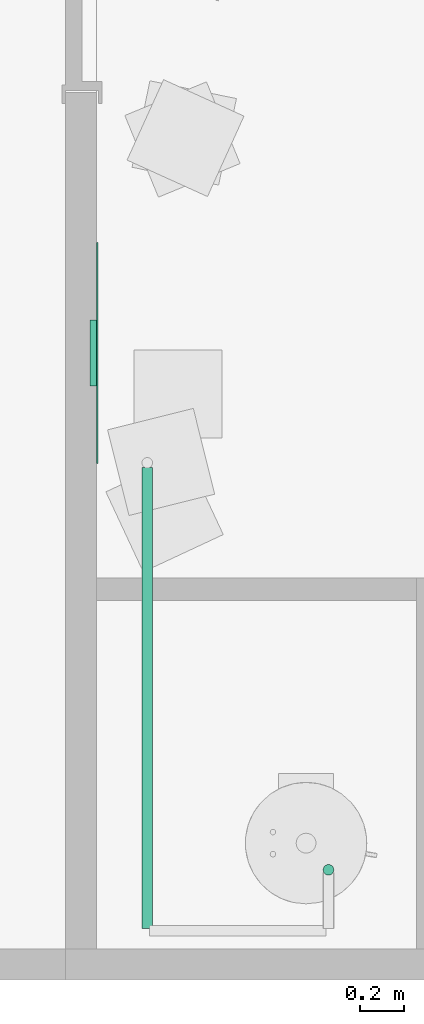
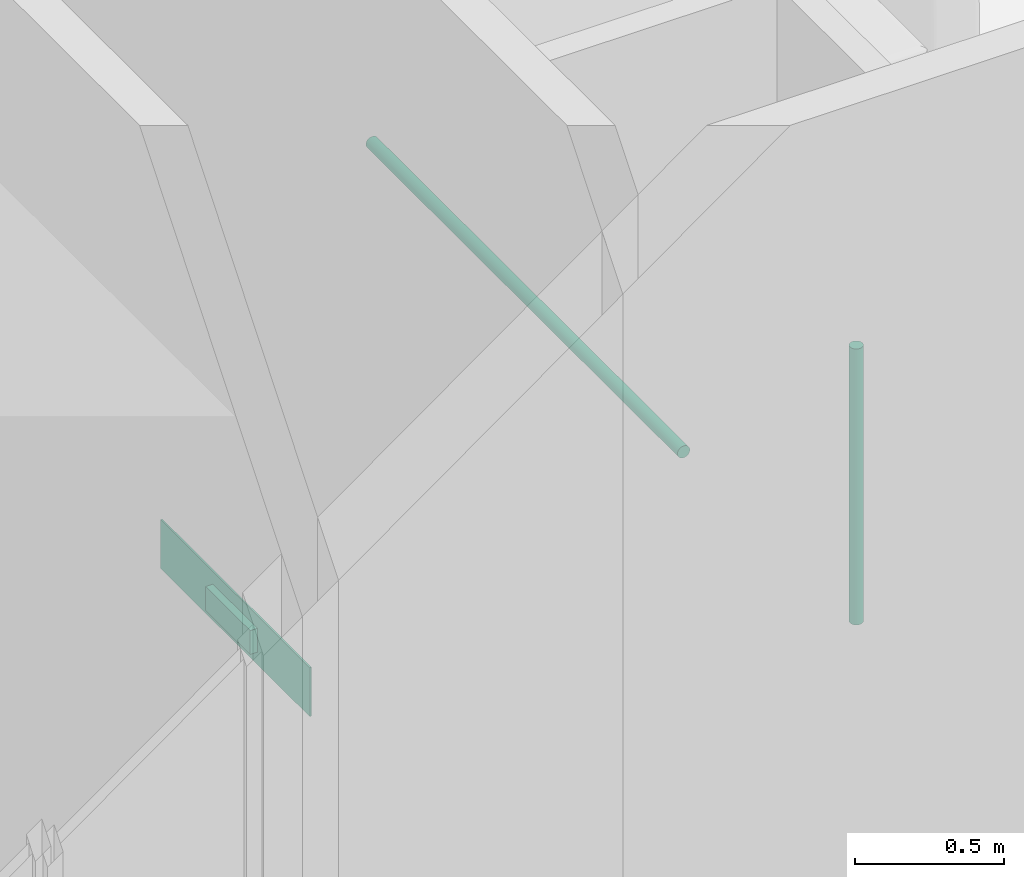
# One storey, part 32 of 69: 2 pipe segments, 1 air terminal.
"""IFC4 building model written with IfcOpenShell, lengths in centimetres."""

from ifc_helpers import new_model, entity, si_unit, converted_unit, derived_unit, direction, frame, origin, place, context, subcontext, project, spatial, arc, indexed_curve, outline, extrude, source, transform, mapped, material, constituent, constituent_set, type_object, type_shapes, element, save


model = new_model("IFC4")

# Units and contexts
model_context = context("Model", 3, precision=0.001, world=origin(), true_north=direction((6.123233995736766e-17, 1.0)))
body_context = subcontext(model_context, "Body", "Model", "MODEL_VIEW")
ifc_project = project(units=[si_unit("LENGTHUNIT", "METRE", prefix="CENTI"), si_unit("AREAUNIT", "SQUARE_METRE"), si_unit("VOLUMEUNIT", "CUBIC_METRE"), derived_unit("THERMALTRANSMITTANCEUNIT", [(si_unit("MASSUNIT", "GRAM", prefix="KILO"), 1), (si_unit("THERMODYNAMICTEMPERATUREUNIT", "KELVIN"), -1), (si_unit("TIMEUNIT", "SECOND"), -3)]), converted_unit("PLANEANGLEUNIT", "DEGREE", entity("IfcPlaneAngleMeasure", 0.017453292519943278), si_unit("PLANEANGLEUNIT", "RADIAN"), dimensions=[0, 0, 0, 0, 0, 0, 0]), derived_unit("MASSDENSITYUNIT", [(si_unit("MASSUNIT", "GRAM", prefix="KILO"), 1), (si_unit("LENGTHUNIT", "METRE"), -3)]), derived_unit("VAPORPERMEABILITYUNIT", [(si_unit("LENGTHUNIT", "METRE"), -1), (si_unit("TIMEUNIT", "SECOND"), 1)]), derived_unit("USERDEFINED", [(si_unit("MASSUNIT", "GRAM", prefix="KILO"), 1), (si_unit("TIMEUNIT", "SECOND"), -3), (si_unit("LENGTHUNIT", "METRE"), 3), (si_unit("ELECTRICCURRENTUNIT", "AMPERE"), -2)]), derived_unit("SPECIFICHEATCAPACITYUNIT", [(si_unit("THERMODYNAMICTEMPERATUREUNIT", "KELVIN"), -1), (si_unit("LENGTHUNIT", "METRE"), 2), (si_unit("TIMEUNIT", "SECOND"), -2)]), derived_unit("THERMALCONDUCTANCEUNIT", [(si_unit("MASSUNIT", "GRAM", prefix="KILO"), 1), (si_unit("THERMODYNAMICTEMPERATUREUNIT", "KELVIN"), -1), (si_unit("TIMEUNIT", "SECOND"), -3), (si_unit("LENGTHUNIT", "METRE"), 1)]), si_unit("PRESSUREUNIT", "PASCAL"), derived_unit("MODULUSOFELASTICITYUNIT", [(si_unit("MASSUNIT", "GRAM", prefix="KILO"), 1), (si_unit("LENGTHUNIT", "METRE"), -1), (si_unit("TIMEUNIT", "SECOND"), -2)]), derived_unit("THERMALEXPANSIONCOEFFICIENTUNIT", [(si_unit("THERMODYNAMICTEMPERATUREUNIT", "KELVIN"), -1)])], contexts=[model_context])

# Site, building, storey, space
site_placement = place(None, origin())
site = spatial("IfcSite", under=ifc_project, at=site_placement, Name="Default", CompositionType="ELEMENT")
building_placement = place(site_placement, origin())
building = spatial("IfcBuilding", under=site, at=building_placement, Name="IDS Escape Game Building", CompositionType="ELEMENT")
storey_placement = place(building_placement, origin())
storey = spatial("IfcBuildingStorey", under=building, at=storey_placement, Name="00_Ground Floor", CompositionType="ELEMENT", Elevation=0.0)
space_placement = place(storey_placement, origin())
space = spatial("IfcSpace", under=storey, at=space_placement, Name="6", CompositionType="ELEMENT", PredefinedType="NOTDEFINED")

# Air terminal
ifc_material_1 = material(Name="TB_LVC_referentievlak_00_gen_BERSnl", Category="BE Default")
ifc_constituent_1 = constituent(ifc_material_1, Name="TB_LVC_referentievlak_00_gen_BERSnl", Category="BE Default", fraction=0.00014157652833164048)
ifc_material_2 = material(Name="ARC_FME.h2_staal_00_gen_BERSnl", Category="h - metaal")
ifc_constituent_2 = constituent(ifc_material_2, Name="ARC_FME.h2_staal_00_gen_BERSnl", Category="h - metaal", fraction=0.9998584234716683)
ifc_constituent_set_1 = constituent_set(constituents=[ifc_constituent_1, ifc_constituent_2])
ifc_constituent_3 = constituent(ifc_material_1, Name="BE Referentievlak", Category="BE Default", fraction=0.00014157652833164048)
ifc_constituent_4 = constituent(ifc_material_2, Name="Terminals", Category="h - metaal", fraction=0.9998584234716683)
ifc_constituent_set_2 = constituent_set(constituents=[ifc_constituent_3, ifc_constituent_4])
air_terminal_type = type_object("IfcAirTerminalType", Name="TB_57_AIR_FB_aanzuigrooster - 1 rechthoekige aansluiting - calculated flow_gen_BERSnl:Air Terminal - Exhaust", PredefinedType="GRILLE", material=ifc_constituent_set_2)
shared_shape = source(origin(), body_context, "Body", "SweptSolid", [
    extrude(outline(indexed_curve([(-0.5, -2.0290176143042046e-15), (6.8507733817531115e-16, -0.5000000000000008), (0.5, 2.0290176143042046e-15), (-5.361679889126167e-16, 0.49999999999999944)], segments=[arc(1, 2, 3), arc(3, 4, 1)], self_intersect=False)), frame((0.0, 0.0, 0.0), z_axis=(1.7453292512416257e-05, 0.0, 1.0), x_axis=(0.0, 1.0, 0.0)), (0.0, 0.0, 1.0), 0.09999999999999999),
    extrude(outline(indexed_curve([(-14.900000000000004, -4.9), (14.900000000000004, -4.9), (14.900000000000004, 4.9), (-14.900000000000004, 4.9), (-14.900000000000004, -4.9)], self_intersect=False)), frame((-4.886921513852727e-05, 0.0, -2.7999999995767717)), (0.0, 0.0, 1.0), 2.7999999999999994),
    extrude(outline(indexed_curve([(-50.0, -10.0), (50.0, -10.0), (50.0, 10.0), (-50.0, 10.0), (-50.0, -10.0)], self_intersect=False)), frame((0.0, 0.0, 0.0), z_axis=(0.0, 0.0, 1.0), x_axis=(-1.0, 0.0, 0.0)), (0.0, 0.0, 1.0), 0.6999999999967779),
])
type_shapes(air_terminal_type, [shared_shape])
air_terminal_placement = place(space_placement, frame((3697.0, 283.0, 24.0), z_axis=(1.0, 0.0, 0.0), x_axis=(0.0, 1.0, 0.0)))
element("IfcAirTerminal", 1, at=air_terminal_placement, inside=space, type_object=air_terminal_type, material=ifc_constituent_set_1, Name="TB_57_AIR_FB_aanzuigrooster - 1 rechthoekige aansluiting - calculated flow_gen_BERSnl:Air Terminal - Exhaust", ObjectType="TB_57_AIR_FB_aanzuigrooster - 1 rechthoekige aansluiting - calculated flow_gen_BERSnl:Air Terminal - Exhaust", PredefinedType="GRILLE", context=body_context, shape_type="MappedRepresentation", body=[
    mapped(shared_shape, transform((0.0, 0.0, 0.0), scale=1.0)),
])

# Pipe segments
pipe_segment_type = type_object("IfcPipeSegmentType", Name="Pipe Types:Piping Aluminum", PredefinedType="NOTDEFINED")
pipe_segment_1_placement = place(storey_placement, origin())
element("IfcPipeSegment", 2, at=pipe_segment_1_placement, inside=storey, type_object=pipe_segment_type, Name="Pipe Types:Piping Aluminum", ObjectType="Pipe Types:Piping Aluminum", PredefinedType="NOTDEFINED", context=body_context, shape_type="SweptSolid", body=[
    extrude(outline(indexed_curve([(2.412999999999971, 0.0), (1.7062486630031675, 1.7062486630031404), (0.0, 2.412999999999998), (-1.7062486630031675, 1.7062486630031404), (-2.412999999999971, 6.767919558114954e-15), (-1.7062486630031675, -1.7062486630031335), (0.0, -2.412999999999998), (1.7062486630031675, -1.706248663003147)], segments=[arc(1, 2, 3), arc(3, 4, 5), arc(5, 6, 7), arc(7, 8, 1)], self_intersect=False)), frame((3802.150000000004, 48.900000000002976, 128.0), z_axis=(0.0, 0.0, 1.0), x_axis=(-1.0, 0.0, 0.0)), (0.0, 0.0, 1.0), 112.90000000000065),
])
pipe_segment_2_placement = place(storey_placement, origin())
element("IfcPipeSegment", 3, at=pipe_segment_2_placement, inside=storey, type_object=pipe_segment_type, Name="Pipe Types:Piping Aluminum", ObjectType="Pipe Types:Piping Aluminum", PredefinedType="NOTDEFINED", context=body_context, shape_type="SweptSolid", body=[
    extrude(outline(indexed_curve([(2.412999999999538, 0.0), (1.7062486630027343, 1.7062486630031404), (-4.331468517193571e-13, 2.412999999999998), (-1.7062486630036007, 1.7062486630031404), (-2.4130000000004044, 2.7071678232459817e-14), (-1.7062486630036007, -1.7062486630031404), (-4.331468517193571e-13, -2.412999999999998), (1.7062486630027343, -1.7062486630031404)], segments=[arc(1, 2, 3), arc(3, 4, 5), arc(5, 6, 7), arc(7, 8, 1)], self_intersect=False)), frame((3720.0467168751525, 22.364827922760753, 242.0), z_axis=(0.0, 1.0, 0.0), x_axis=(1.0, 0.0, 0.0)), (0.0, 0.0, 1.0), 208.80000000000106),
])

save(model, "model.ifc")
